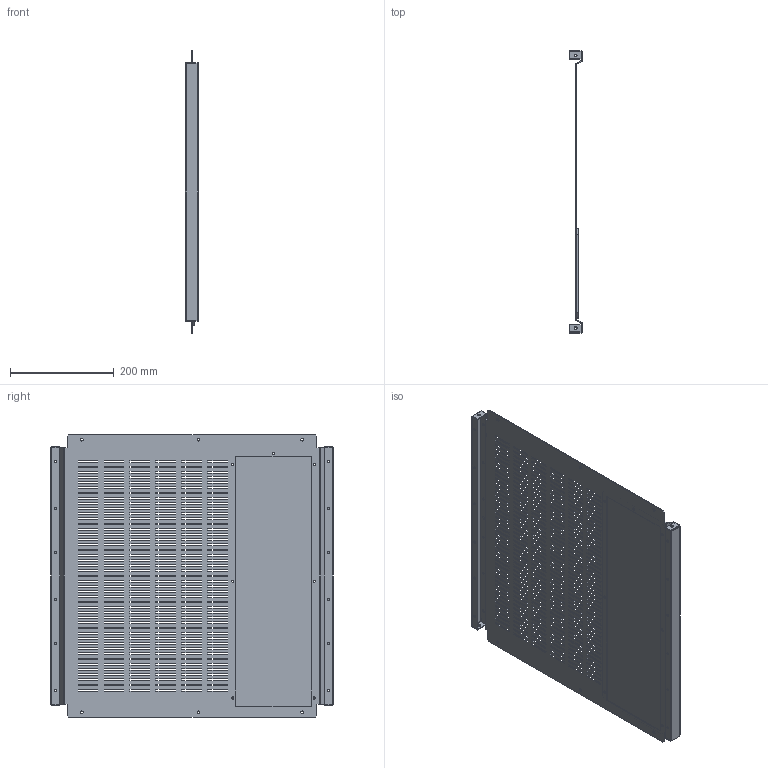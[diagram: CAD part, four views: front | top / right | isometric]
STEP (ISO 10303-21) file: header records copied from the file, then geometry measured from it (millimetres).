
FILE_DESCRIPTION(('CAx-IF Rec.Pracs.---Model Styling and Organization---1.2---2011-12-15','CAx-IF Rec.Pracs.---Geometric and Assembly Validation Properties---4.1---2014-06-16','CAx-IF Rec.Pracs.---PMI Polyline Presentation---2.0---2013-05-24'),'2;1');
FILE_NAME('R5SBBFS606.stp','2021-05-06T02:29:12+03:00',(''),(''),'STEP Interface 4.4 by CT CoreTechnologie','3D_Evolution4.4 by CT CoreTechnologie','');
FILE_SCHEMA(('AUTOMOTIVE_DESIGN { 1 0 10303 214 1 1 1 1 }'));
Length unit declared in the file: millimetre
Products named in the file (4): R5SBBFS606; RB.1170.00.00.0_-00; RB.1169.00.00.0_-00; RB.0697.00.00.0_-01
Assembly tree (4 placements, depth 2):
  R5SBBFS606
    RB.1170.00.00.0_-00
    RB.1169.00.00.0_-00
    RB.0697.00.00.0_-01  x2
Bounding box: 26.5 x 544 x 545 mm (x, y, z)
Surface area: 711152.3 mm2 (no closed solid volume)
Topology: 0 solids, 8 shells, 1308 faces, 3844 edges, 2552 vertices
Faces by surface type: plane 1176, cylinder 124, bspline 8
Entity records: 42419 total; most frequent: CARTESIAN_POINT 7475, ORIENTED_EDGE 7384, DIRECTION 6370, EDGE_CURVE 3692, VECTOR 3508, LINE 3508, VERTEX_POINT 2456, EDGE_LOOP 1868
